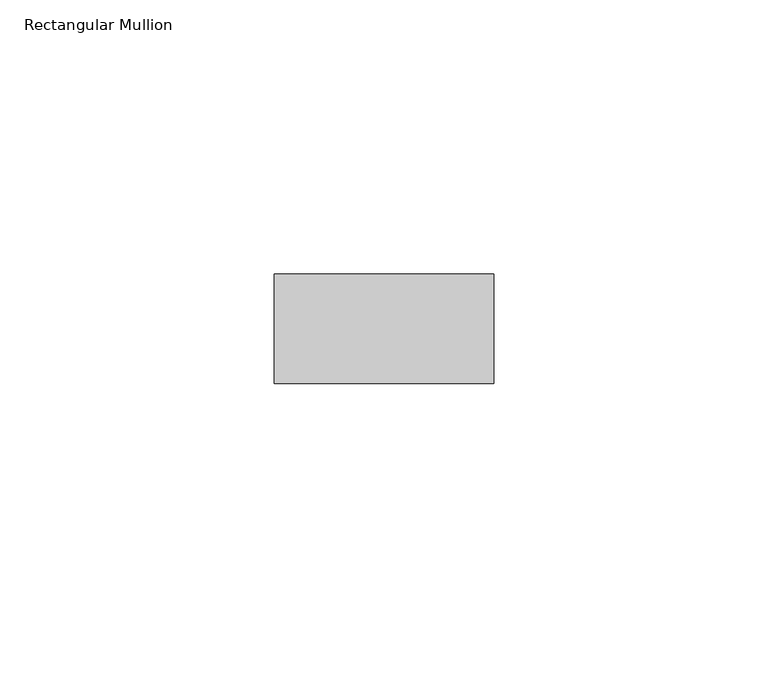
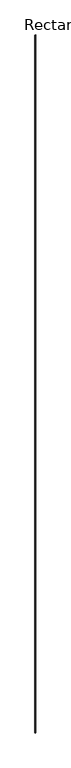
"""IFC4 building model written with IfcOpenShell, lengths in millimetres: member geometry, Rectangular Mullion : RIPA 4x2 cm."""

from ifc_helpers import new_model, si_unit, frame, origin, place, context, project, spatial, polyline, outline, extrude, source, transform, mapped, element, save


def rectangular_mullion_427d9570(model_context):
    return source(origin(), model_context, "Body", "SweptSolid", [
        extrude(outline(polyline([(20.0, 0.0), (20.0, -20.0), (-20.0, -20.0), (-20.0, 0.0), (20.0, 0.0)])), frame((0.0, 0.0, -38462.1776969), z_axis=(0.0, 0.0, 1.0), x_axis=(1.0, 0.0, 0.0)), (0.0, 0.0, 1.0), 38462.1776969),
    ])


if __name__ == "__main__":
    model = new_model("IFC4")
    model_context = context("Model", 3, world=origin())
    ifc_project = project(units=[si_unit("LENGTHUNIT", "METRE", prefix="MILLI")], contexts=[model_context])
    site = spatial("IfcSite", under=ifc_project)
    building = spatial("IfcBuilding", under=site)
    placement = place(None, origin())
    rectangular_mullion_shape = rectangular_mullion_427d9570(model_context)
    element("IfcMember", 1, ObjectType="Rectangular Mullion : RIPA 4x2 cm", at=placement, inside=building, context=model_context, shape_type="MappedRepresentation", body=[
        mapped(rectangular_mullion_shape, transform((0.0, 0.0, 0.0), x_axis=(1.0, 0.0, 0.0), y_axis=(0.0, 1.0, 0.0), z_axis=(0.0, 0.0, 1.0))),
    ])
    save(model, "model.ifc")
